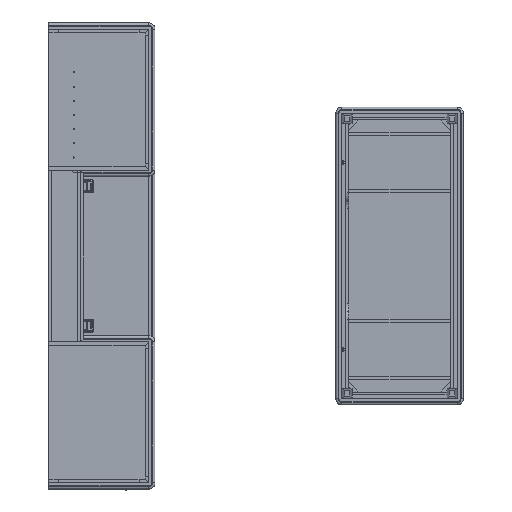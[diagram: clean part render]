
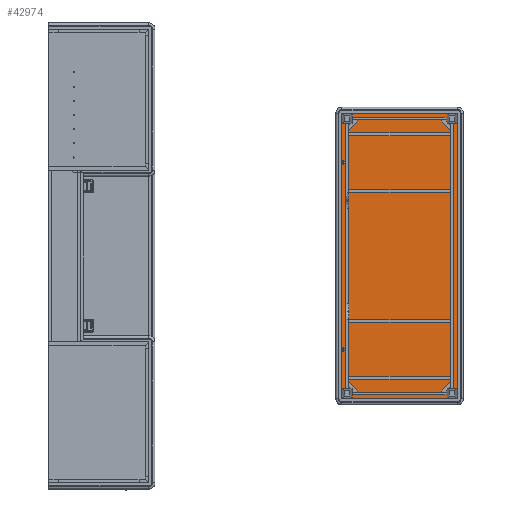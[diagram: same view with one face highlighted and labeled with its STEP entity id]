
A CAD part, front view. The second image highlights one B-rep face of the part: STEP entity #42974.
In plain terms, the highlighted planar face has unit normal (0, -1, 0).
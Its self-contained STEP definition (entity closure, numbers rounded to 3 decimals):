
#6729=FACE_OUTER_BOUND('',#9181,.T.);
#9181=EDGE_LOOP('',(#29718,#29719,#29720,#29721));
#11702=LINE('',#62245,#16017);
#11706=LINE('',#62253,#16021);
#11709=LINE('',#62259,#16024);
#11712=LINE('',#62264,#16027);
#16017=VECTOR('',#50188,0.394);
#16021=VECTOR('',#50194,0.394);
#16024=VECTOR('',#50199,0.394);
#16027=VECTOR('',#50204,0.394);
#20332=VERTEX_POINT('',#62243);
#20333=VERTEX_POINT('',#62244);
#20336=VERTEX_POINT('',#62252);
#20338=VERTEX_POINT('',#62258);
#23948=EDGE_CURVE('',#20332,#20333,#11702,.T.);
#23952=EDGE_CURVE('',#20336,#20332,#11706,.T.);
#23955=EDGE_CURVE('',#20338,#20336,#11709,.T.);
#23958=EDGE_CURVE('',#20333,#20338,#11712,.T.);
#29718=ORIENTED_EDGE('',*,*,#23958,.F.);
#29719=ORIENTED_EDGE('',*,*,#23948,.F.);
#29720=ORIENTED_EDGE('',*,*,#23952,.F.);
#29721=ORIENTED_EDGE('',*,*,#23955,.F.);
#41203=PLANE('',#46316);
#42974=ADVANCED_FACE('',(#6729),#41203,.F.);
#46316=AXIS2_PLACEMENT_3D('',#62267,#50208,#50209);
#50188=DIRECTION('',(-1.,0.,0.));
#50194=DIRECTION('',(0.,0.,-1.));
#50199=DIRECTION('',(1.,0.,0.));
#50204=DIRECTION('',(0.,0.,1.));
#50208=DIRECTION('center_axis',(0.,1.,0.));
#50209=DIRECTION('ref_axis',(0.,0.,1.));
#62243=CARTESIAN_POINT('',(79.5,27.75,-31.5));
#62244=CARTESIAN_POINT('',(-1.,27.75,-31.5));
#62245=CARTESIAN_POINT('',(79.5,27.75,-31.5));
#62252=CARTESIAN_POINT('',(79.5,27.75,1.));
#62253=CARTESIAN_POINT('',(79.5,27.75,1.));
#62258=CARTESIAN_POINT('',(-1.,27.75,1.));
#62259=CARTESIAN_POINT('',(-1.,27.75,1.));
#62264=CARTESIAN_POINT('',(-1.,27.75,-31.5));
#62267=CARTESIAN_POINT('Origin',(39.25,27.75,-15.25));
